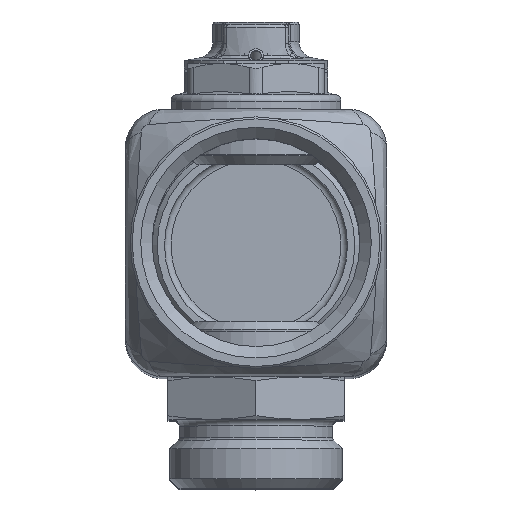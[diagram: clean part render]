
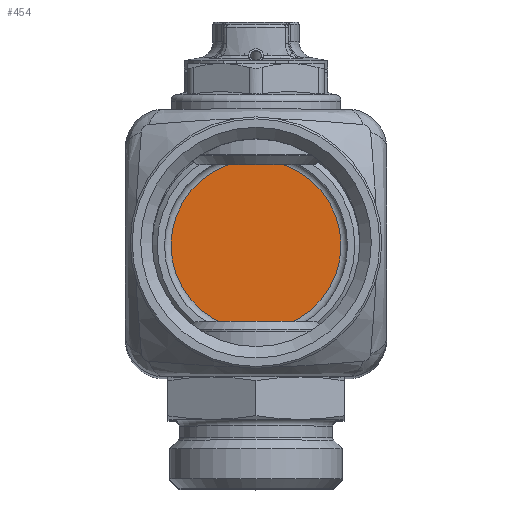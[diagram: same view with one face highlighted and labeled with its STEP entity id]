
A CAD part, top view. The second image highlights one B-rep face of the part: STEP entity #454.
In plain terms, the highlighted planar face has unit normal (0, 0, 1).
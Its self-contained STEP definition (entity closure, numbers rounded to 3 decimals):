
#454=ADVANCED_FACE('',(#5739),#5741,.T.);
#5739=FACE_BOUND('',#5740,.T.);
#5740=EDGE_LOOP('',(#13339));
#5741=PLANE('',#5742);
#5742=AXIS2_PLACEMENT_3D('',#5743,#5744,#5745);
#5743=CARTESIAN_POINT('',(0.,0.,-109.75));
#5744=DIRECTION('',(0.,0.,1.));
#5745=DIRECTION('',(1.,0.,0.));
#13339=ORIENTED_EDGE('',*,*,#15965,.T.);
#15965=EDGE_CURVE('',#18384,#18384,#18385,.T.);
#18384=VERTEX_POINT('',#24762);
#18385=CIRCLE('',#24763,13.);
#24762=CARTESIAN_POINT('',(13.,0.,-109.75));
#24763=AXIS2_PLACEMENT_3D('',#24764,#24765,#24766);
#24764=CARTESIAN_POINT('',(0.,0.,-109.75));
#24765=DIRECTION('',(0.,0.,1.));
#24766=DIRECTION('',(1.,0.,0.));
